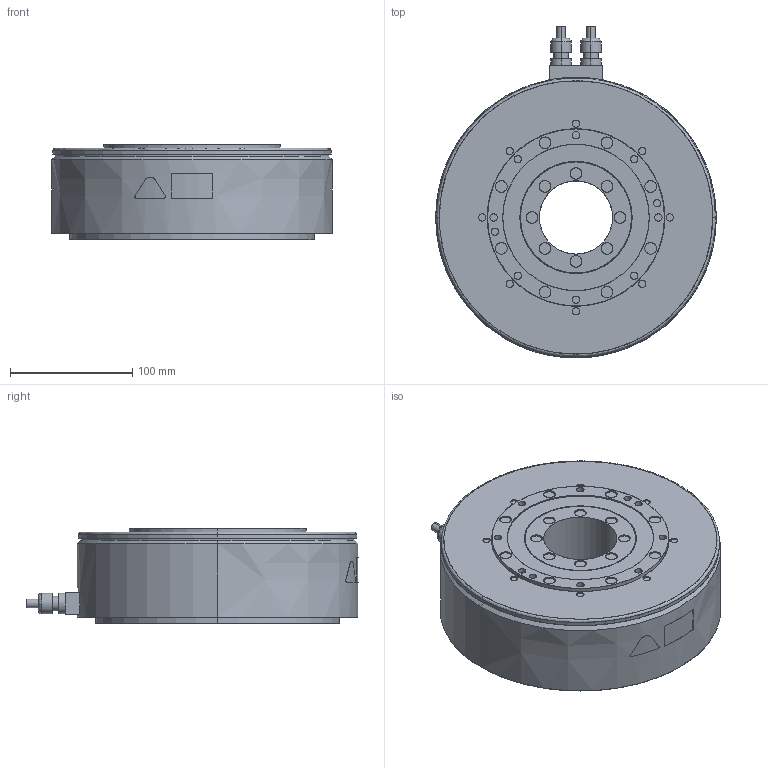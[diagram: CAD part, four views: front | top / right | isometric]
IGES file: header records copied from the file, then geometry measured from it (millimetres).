
Start section: SolidWorks IGES file using analytic representation for surfaces
Bounding box: 230 x 272.1 x 78 mm (x, y, z)
Surface area: 159648.3 mm2 (no closed solid volume)
Topology: 0 solids, 0 shells, 263 faces, 6450 edges, 6450 vertices
Faces by surface type: revolution 164, bspline 99
